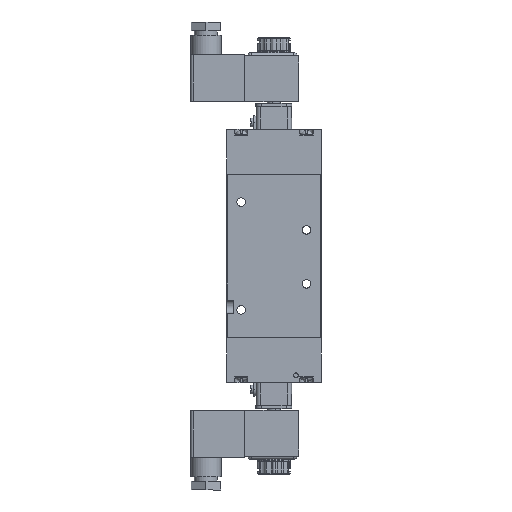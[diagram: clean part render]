
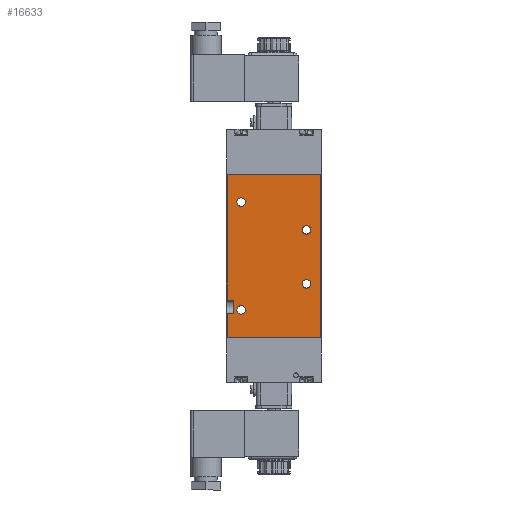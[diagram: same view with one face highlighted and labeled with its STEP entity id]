
A CAD part, left-side view. The second image highlights one B-rep face of the part: STEP entity #16633.
In plain terms, the highlighted planar face has unit normal (-1, 0, 0) as drawn and (0, 0, -1) by its records, which use the part's own axes.
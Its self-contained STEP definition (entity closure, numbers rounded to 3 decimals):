
#218 = CARTESIAN_POINT ( 'NONE',  ( -100., -29., -17. ) ) ;
#272 = ORIENTED_EDGE ( 'NONE', *, *, #15328, .F. ) ;
#301 = CARTESIAN_POINT ( 'NONE',  ( 0., -28.5, -17. ) ) ;
#506 = DIRECTION ( 'NONE',  ( 1., 0., 0. ) ) ;
#624 = CARTESIAN_POINT ( 'NONE',  ( -85., -24.7, -17. ) ) ;
#735 = CARTESIAN_POINT ( 'NONE',  ( -83., -20., -17. ) ) ;
#755 = DIRECTION ( 'NONE',  ( -1., 0., 0. ) ) ;
#821 = CARTESIAN_POINT ( 'NONE',  ( -67., 20., -17. ) ) ;
#930 = CARTESIAN_POINT ( 'NONE',  ( -85., -28.5, -17. ) ) ;
#1129 = EDGE_CURVE ( 'NONE', #3242, #19958, #2043, .T. ) ;
#1179 = DIRECTION ( 'NONE',  ( 1., 0., 0. ) ) ;
#1350 = DIRECTION ( 'NONE',  ( 0., -1., 0. ) ) ;
#1542 = DIRECTION ( 'NONE',  ( 1., 0., 0. ) ) ;
#1649 = VECTOR ( 'NONE', #6282, 1000. ) ;
#1747 = CARTESIAN_POINT ( 'NONE',  ( -100., -29., -17. ) ) ;
#2005 = EDGE_LOOP ( 'NONE', ( #6997, #20371 ) ) ;
#2043 = CIRCLE ( 'NONE', #14136, 2.65 ) ;
#2118 = DIRECTION ( 'NONE',  ( 0., 0., 1. ) ) ;
#2257 = CIRCLE ( 'NONE', #10557, 2.65 ) ;
#2594 = VERTEX_POINT ( 'NONE', #8899 ) ;
#2776 = ORIENTED_EDGE ( 'NONE', *, *, #8071, .F. ) ;
#2825 = EDGE_CURVE ( 'NONE', #11441, #10869, #9385, .T. ) ;
#2870 = CARTESIAN_POINT ( 'NONE',  ( -100., -28.5, -17. ) ) ;
#2916 = CARTESIAN_POINT ( 'NONE',  ( -77., -24.7, -17. ) ) ;
#2998 = EDGE_CURVE ( 'NONE', #19494, #21211, #11606, .T. ) ;
#3075 = VERTEX_POINT ( 'NONE', #8683 ) ;
#3165 = ORIENTED_EDGE ( 'NONE', *, *, #2998, .T. ) ;
#3242 = VERTEX_POINT ( 'NONE', #21354 ) ;
#3420 = DIRECTION ( 'NONE',  ( 1., 0., 0. ) ) ;
#3483 = PLANE ( 'NONE',  #13116 ) ;
#3616 = CARTESIAN_POINT ( 'NONE',  ( -14.35, -20., -17. ) ) ;
#3677 = CIRCLE ( 'NONE', #4005, 2.65 ) ;
#3833 = DIRECTION ( 'NONE',  ( 1., 0., 0. ) ) ;
#3936 = DIRECTION ( 'NONE',  ( 0., 0., 1. ) ) ;
#3999 = CARTESIAN_POINT ( 'NONE',  ( -100., 28.5, -17. ) ) ;
#4005 = AXIS2_PLACEMENT_3D ( 'NONE', #16746, #8390, #3833 ) ;
#4200 = EDGE_CURVE ( 'NONE', #19958, #3242, #16723, .T. ) ;
#4641 = EDGE_LOOP ( 'NONE', ( #19041, #14344, #3165, #19465, #272, #21215, #2776, #16309 ) ) ;
#4706 = LINE ( 'NONE', #2870, #14513 ) ;
#5226 = FACE_BOUND ( 'NONE', #12693, .T. ) ;
#5707 = VECTOR ( 'NONE', #7619, 1000. ) ;
#5841 = LINE ( 'NONE', #3999, #12351 ) ;
#5979 = CARTESIAN_POINT ( 'NONE',  ( -36.65, 20., -17. ) ) ;
#6087 = EDGE_CURVE ( 'NONE', #13253, #20148, #3677, .T. ) ;
#6093 = CIRCLE ( 'NONE', #11632, 2.65 ) ;
#6175 = EDGE_CURVE ( 'NONE', #15603, #15311, #15636, .T. ) ;
#6207 = DIRECTION ( 'NONE',  ( 1., 0., 0. ) ) ;
#6282 = DIRECTION ( 'NONE',  ( 0., 1., 0. ) ) ;
#6399 = ORIENTED_EDGE ( 'NONE', *, *, #6087, .T. ) ;
#6529 = FACE_BOUND ( 'NONE', #11257, .T. ) ;
#6997 = ORIENTED_EDGE ( 'NONE', *, *, #4200, .T. ) ;
#7619 = DIRECTION ( 'NONE',  ( 1., 0., 0. ) ) ;
#7772 = CARTESIAN_POINT ( 'NONE',  ( -31.35, 20., -17. ) ) ;
#7919 = CARTESIAN_POINT ( 'NONE',  ( -17., -20., -17. ) ) ;
#8071 = EDGE_CURVE ( 'NONE', #15311, #2594, #12837, .T. ) ;
#8153 = DIRECTION ( 'NONE',  ( 0., 0., 1. ) ) ;
#8358 = DIRECTION ( 'NONE',  ( 0., 1., 0. ) ) ;
#8390 = DIRECTION ( 'NONE',  ( 0., 0., 1. ) ) ;
#8471 = FACE_OUTER_BOUND ( 'NONE', #4641, .T. ) ;
#8683 = CARTESIAN_POINT ( 'NONE',  ( 0., 28.5, -17. ) ) ;
#8899 = CARTESIAN_POINT ( 'NONE',  ( -77., -28.5, -17. ) ) ;
#9077 = DIRECTION ( 'NONE',  ( 0., 0., 1. ) ) ;
#9110 = DIRECTION ( 'NONE',  ( 0., 0., 1. ) ) ;
#9328 = EDGE_CURVE ( 'NONE', #10869, #11441, #20832, .T. ) ;
#9385 = CIRCLE ( 'NONE', #11802, 2.65 ) ;
#9523 = VECTOR ( 'NONE', #755, 1000. ) ;
#9715 = CARTESIAN_POINT ( 'NONE',  ( -100., -28.5, -17. ) ) ;
#10053 = EDGE_CURVE ( 'NONE', #20148, #13253, #20820, .T. ) ;
#10268 = EDGE_LOOP ( 'NONE', ( #17979, #6399 ) ) ;
#10335 = DIRECTION ( 'NONE',  ( 1., 0., 0. ) ) ;
#10489 = CARTESIAN_POINT ( 'NONE',  ( -34., 20., -17. ) ) ;
#10557 = AXIS2_PLACEMENT_3D ( 'NONE', #10489, #9077, #6207 ) ;
#10594 = CARTESIAN_POINT ( 'NONE',  ( -85., -24.7, -17. ) ) ;
#10745 = CARTESIAN_POINT ( 'NONE',  ( -64.35, 20., -17. ) ) ;
#10758 = AXIS2_PLACEMENT_3D ( 'NONE', #821, #14056, #506 ) ;
#10817 = CARTESIAN_POINT ( 'NONE',  ( -100., 28.5, -17. ) ) ;
#10869 = VERTEX_POINT ( 'NONE', #11191 ) ;
#10969 = CARTESIAN_POINT ( 'NONE',  ( -77., -24.7, -17. ) ) ;
#11191 = CARTESIAN_POINT ( 'NONE',  ( -80.35, -20., -17. ) ) ;
#11257 = EDGE_LOOP ( 'NONE', ( #15715, #11604 ) ) ;
#11441 = VERTEX_POINT ( 'NONE', #21097 ) ;
#11490 = AXIS2_PLACEMENT_3D ( 'NONE', #11764, #2118, #3420 ) ;
#11517 = CARTESIAN_POINT ( 'NONE',  ( -34., 20., -17. ) ) ;
#11604 = ORIENTED_EDGE ( 'NONE', *, *, #12809, .T. ) ;
#11606 = LINE ( 'NONE', #1747, #12842 ) ;
#11632 = AXIS2_PLACEMENT_3D ( 'NONE', #11517, #8153, #1542 ) ;
#11764 = CARTESIAN_POINT ( 'NONE',  ( -83., -20., -17. ) ) ;
#11783 = VECTOR ( 'NONE', #1350, 1000. ) ;
#11802 = AXIS2_PLACEMENT_3D ( 'NONE', #735, #17240, #12334 ) ;
#11821 = DIRECTION ( 'NONE',  ( 0., 0., -1. ) ) ;
#12110 = EDGE_CURVE ( 'NONE', #15610, #19494, #15839, .T. ) ;
#12334 = DIRECTION ( 'NONE',  ( 1., 0., 0. ) ) ;
#12351 = VECTOR ( 'NONE', #14176, 1000. ) ;
#12693 = EDGE_LOOP ( 'NONE', ( #19856, #16376 ) ) ;
#12809 = EDGE_CURVE ( 'NONE', #18989, #15759, #6093, .T. ) ;
#12837 = LINE ( 'NONE', #19475, #11783 ) ;
#12842 = VECTOR ( 'NONE', #8358, 1000. ) ;
#12878 = LINE ( 'NONE', #14402, #1649 ) ;
#13105 = CARTESIAN_POINT ( 'NONE',  ( -69.65, 20., -17. ) ) ;
#13116 = AXIS2_PLACEMENT_3D ( 'NONE', #218, #11821, #13334 ) ;
#13253 = VERTEX_POINT ( 'NONE', #13105 ) ;
#13334 = DIRECTION ( 'NONE',  ( -1., 0., 0. ) ) ;
#14056 = DIRECTION ( 'NONE',  ( 0., 0., 1. ) ) ;
#14087 = CARTESIAN_POINT ( 'NONE',  ( -100., -28.5, -17. ) ) ;
#14136 = AXIS2_PLACEMENT_3D ( 'NONE', #7919, #9110, #1179 ) ;
#14176 = DIRECTION ( 'NONE',  ( 1., 0., 0. ) ) ;
#14251 = EDGE_CURVE ( 'NONE', #21211, #3075, #5841, .T. ) ;
#14270 = EDGE_CURVE ( 'NONE', #15603, #15610, #17443, .T. ) ;
#14344 = ORIENTED_EDGE ( 'NONE', *, *, #12110, .T. ) ;
#14402 = CARTESIAN_POINT ( 'NONE',  ( 0., -29., -17. ) ) ;
#14513 = VECTOR ( 'NONE', #19786, 1000. ) ;
#15311 = VERTEX_POINT ( 'NONE', #2916 ) ;
#15328 = EDGE_CURVE ( 'NONE', #21073, #3075, #12878, .T. ) ;
#15603 = VERTEX_POINT ( 'NONE', #10594 ) ;
#15610 = VERTEX_POINT ( 'NONE', #930 ) ;
#15636 = LINE ( 'NONE', #10969, #5707 ) ;
#15715 = ORIENTED_EDGE ( 'NONE', *, *, #19198, .T. ) ;
#15759 = VERTEX_POINT ( 'NONE', #7772 ) ;
#15839 = LINE ( 'NONE', #14087, #9523 ) ;
#16309 = ORIENTED_EDGE ( 'NONE', *, *, #6175, .F. ) ;
#16376 = ORIENTED_EDGE ( 'NONE', *, *, #2825, .T. ) ;
#16633 = ADVANCED_FACE ( 'NONE', ( #6529, #21382, #18333, #5226, #8471 ), #3483, .T. ) ;
#16723 = CIRCLE ( 'NONE', #17747, 2.65 ) ;
#16746 = CARTESIAN_POINT ( 'NONE',  ( -67., 20., -17. ) ) ;
#17234 = VECTOR ( 'NONE', #19181, 1000. ) ;
#17240 = DIRECTION ( 'NONE',  ( 0., 0., 1. ) ) ;
#17297 = EDGE_CURVE ( 'NONE', #21073, #2594, #4706, .T. ) ;
#17443 = LINE ( 'NONE', #624, #17234 ) ;
#17747 = AXIS2_PLACEMENT_3D ( 'NONE', #18900, #3936, #10335 ) ;
#17979 = ORIENTED_EDGE ( 'NONE', *, *, #10053, .T. ) ;
#18333 = FACE_BOUND ( 'NONE', #2005, .T. ) ;
#18900 = CARTESIAN_POINT ( 'NONE',  ( -17., -20., -17. ) ) ;
#18989 = VERTEX_POINT ( 'NONE', #5979 ) ;
#19041 = ORIENTED_EDGE ( 'NONE', *, *, #14270, .T. ) ;
#19181 = DIRECTION ( 'NONE',  ( 0., -1., 0. ) ) ;
#19198 = EDGE_CURVE ( 'NONE', #15759, #18989, #2257, .T. ) ;
#19465 = ORIENTED_EDGE ( 'NONE', *, *, #14251, .T. ) ;
#19475 = CARTESIAN_POINT ( 'NONE',  ( -77., -24.7, -17. ) ) ;
#19494 = VERTEX_POINT ( 'NONE', #9715 ) ;
#19786 = DIRECTION ( 'NONE',  ( -1., 0., 0. ) ) ;
#19856 = ORIENTED_EDGE ( 'NONE', *, *, #9328, .T. ) ;
#19958 = VERTEX_POINT ( 'NONE', #3616 ) ;
#20148 = VERTEX_POINT ( 'NONE', #10745 ) ;
#20371 = ORIENTED_EDGE ( 'NONE', *, *, #1129, .T. ) ;
#20820 = CIRCLE ( 'NONE', #10758, 2.65 ) ;
#20832 = CIRCLE ( 'NONE', #11490, 2.65 ) ;
#21073 = VERTEX_POINT ( 'NONE', #301 ) ;
#21097 = CARTESIAN_POINT ( 'NONE',  ( -85.65, -20., -17. ) ) ;
#21211 = VERTEX_POINT ( 'NONE', #10817 ) ;
#21215 = ORIENTED_EDGE ( 'NONE', *, *, #17297, .T. ) ;
#21354 = CARTESIAN_POINT ( 'NONE',  ( -19.65, -20., -17. ) ) ;
#21382 = FACE_BOUND ( 'NONE', #10268, .T. ) ;
